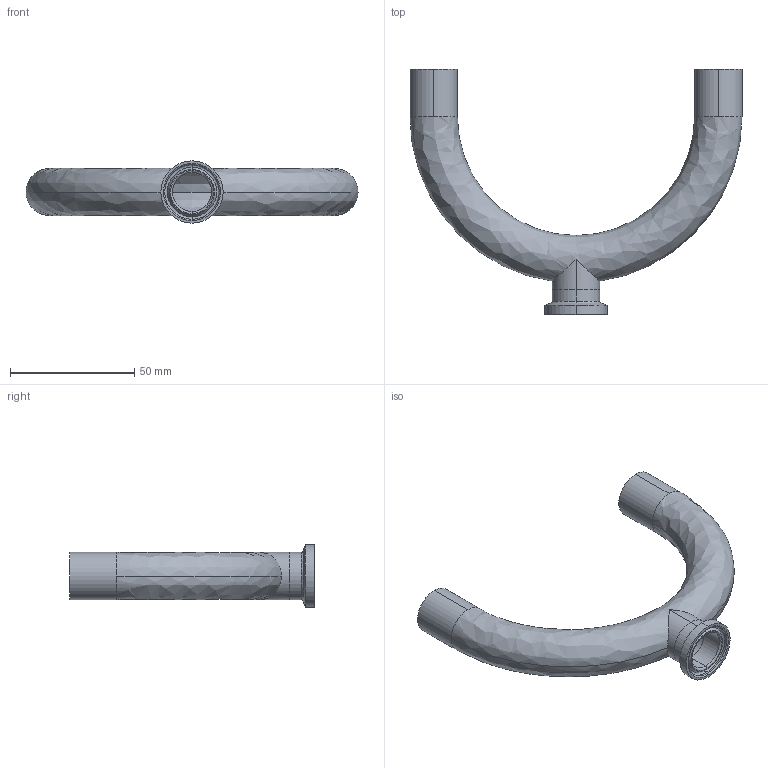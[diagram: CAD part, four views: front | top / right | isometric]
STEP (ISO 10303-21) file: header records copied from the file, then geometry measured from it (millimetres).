
FILE_DESCRIPTION (( 'STEP AP214' ), '1' );
FILE_NAME ('TE2UBWWC6L.75x.75-...STEP', '2016-05-25T04:55:17', ( 'eran' ), ( '' ), 'SwSTEP 2.0', 'SolidWorks 2016', '' );
FILE_SCHEMA (( 'AUTOMOTIVE_DESIGN' ));
Length unit declared in the file: millimetre
Products named in the file (1): TE2UBWWC6L.75x.75-..
Bounding box: 133.35 x 98.4 x 24.99 mm (x, y, z)
Volume: 21238 mm3; surface area: 25996.8 mm2
Topology: 2 solids, 2 shells, 42 faces, 100 edges, 62 vertices
Faces by surface type: cylinder 20, bspline 12, plane 6, cone 4
Entity records: 1752 total; most frequent: CARTESIAN_POINT 742, DIRECTION 214, ORIENTED_EDGE 200, EDGE_CURVE 100, AXIS2_PLACEMENT_3D 95, CIRCLE 64, VERTEX_POINT 62, EDGE_LOOP 48
